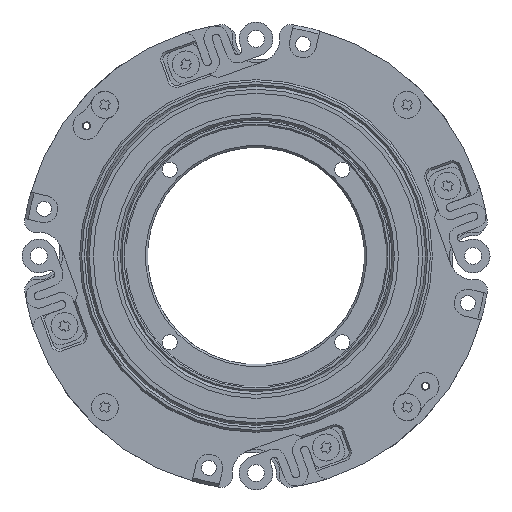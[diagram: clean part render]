
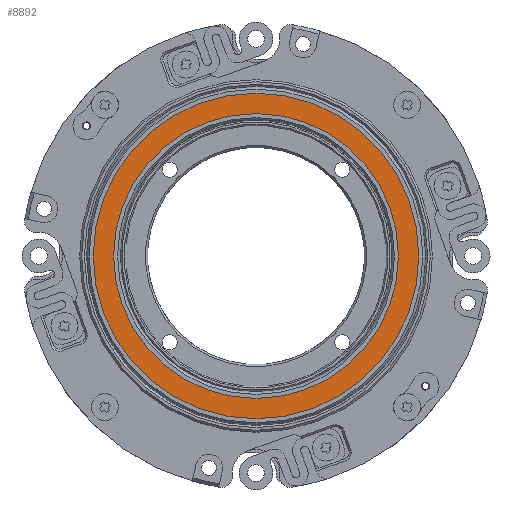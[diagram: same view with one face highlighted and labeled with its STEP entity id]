
A CAD part, front view. The second image highlights one B-rep face of the part: STEP entity #8892.
In plain terms, the highlighted planar face has unit normal (0, -1, 0).
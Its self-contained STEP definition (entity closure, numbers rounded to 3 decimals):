
#4331=PLANE('',#95739);
#8135=FACE_BOUND('',#20532,.T.);
#8136=FACE_BOUND('',#20533,.T.);
#8892=ADVANCED_FACE('',(#8135,#8136),#4331,.T.);
#20532=EDGE_LOOP('',(#47392));
#20533=EDGE_LOOP('',(#47393));
#47392=ORIENTED_EDGE('',*,*,#80530,.F.);
#47393=ORIENTED_EDGE('',*,*,#80529,.F.);
#72025=VERTEX_POINT('',#130312);
#72026=VERTEX_POINT('',#130315);
#80529=EDGE_CURVE('',#72025,#72025,#92877,.T.);
#80530=EDGE_CURVE('',#72026,#72026,#92878,.T.);
#92877=CIRCLE('',#95736,21.);
#92878=CIRCLE('',#95738,24.);
#95736=AXIS2_PLACEMENT_3D('',#130311,#104550,#104551);
#95738=AXIS2_PLACEMENT_3D('',#130314,#104554,#104555);
#95739=AXIS2_PLACEMENT_3D('',#130316,#104556,#104557);
#104550=DIRECTION('',(0.,-1.,0.));
#104551=DIRECTION('',(0.,0.,-1.));
#104554=DIRECTION('',(0.,1.,0.));
#104555=DIRECTION('',(0.,0.,-1.));
#104556=DIRECTION('',(0.,-1.,0.));
#104557=DIRECTION('',(-0.753,0.,-0.658));
#130311=CARTESIAN_POINT('',(108.,-0.8,-100.));
#130312=CARTESIAN_POINT('',(108.,-0.8,-121.));
#130314=CARTESIAN_POINT('',(108.,-0.8,-100.));
#130315=CARTESIAN_POINT('',(108.,-0.8,-124.));
#130316=CARTESIAN_POINT('',(96.722,-0.8,-87.08));
